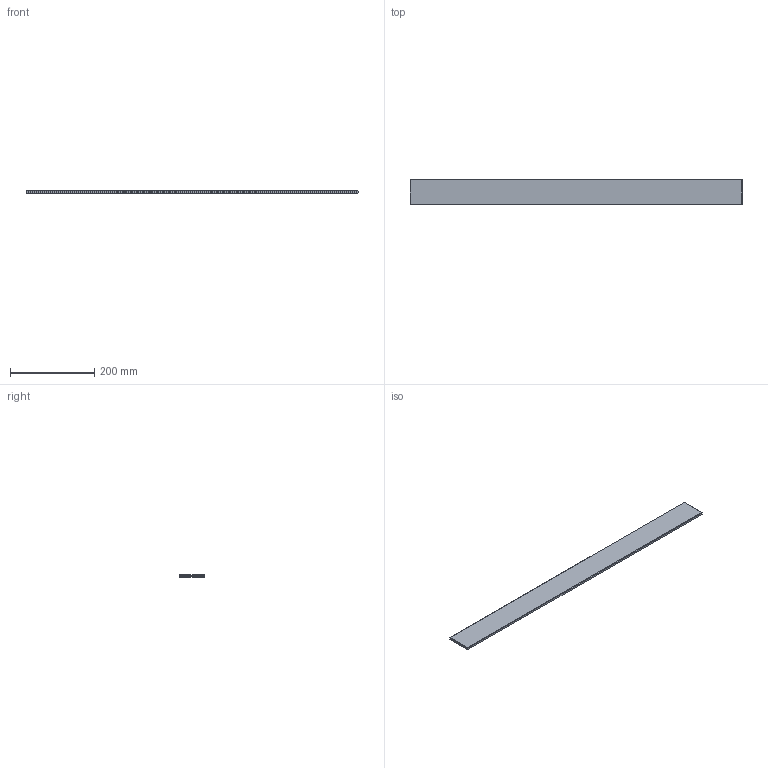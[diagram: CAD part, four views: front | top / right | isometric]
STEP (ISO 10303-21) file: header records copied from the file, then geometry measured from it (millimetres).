
FILE_DESCRIPTION((''),'2;1');
FILE_NAME('238473-HI','2023-01-30T08:35:17',('1ke04'),('Kesseboehmer'),'CREO PARAMETRIC BY PTC INC, 2020414','CREO PARAMETRIC BY PTC INC, 2020414','');
FILE_SCHEMA(('AUTOMOTIVE_DESIGN { 1 0 10303 214 1 1 1 1 }'));
Length unit declared in the file: millimetre
Products named in the file (1): 238473-HI
Bounding box: 789 x 61 x 6 mm (x, y, z)
Volume: 287076.7 mm3; surface area: 104463 mm2
Topology: 1 solids, 1 shells, 14 faces, 28 edges, 16 vertices
Faces by surface type: plane 14
Entity records: 966 total; most frequent: COLOUR_RGB 194, DIRECTION 81, CARTESIAN_POINT 76, ORIENTED_EDGE 56, PROPERTY_DEFINITION 39, REPRESENTATION 38, PROPERTY_DEFINITION_REPRESENTATION 38, PRESENTATION_STYLE_ASSIGNMENT 32
